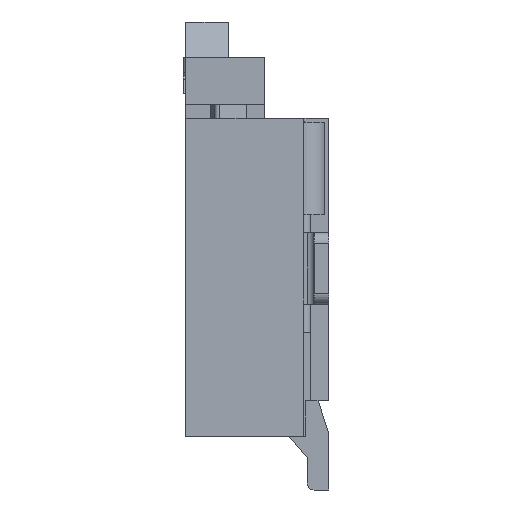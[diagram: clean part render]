
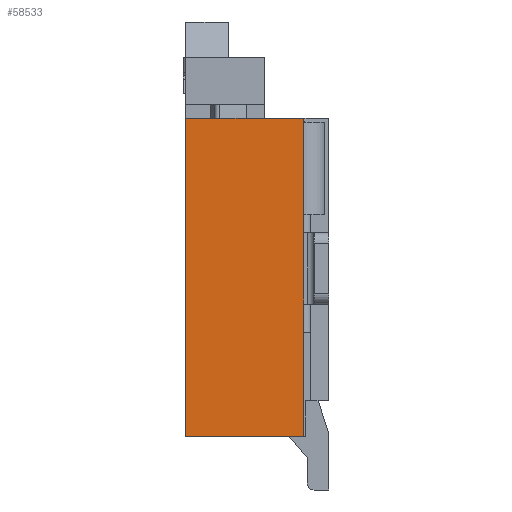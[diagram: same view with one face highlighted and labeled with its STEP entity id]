
A CAD part, left-side view. The second image highlights one B-rep face of the part: STEP entity #58533.
In plain terms, the highlighted planar face has unit normal (-1, 0, 0).
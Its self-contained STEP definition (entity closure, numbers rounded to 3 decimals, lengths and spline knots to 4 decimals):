
#15465=DIRECTION('',(0.,0.,-1.));
#15466=VECTOR('',#15465,4.45);
#15467=CARTESIAN_POINT('',(0.,0.35,0.));
#15468=LINE('',#15467,#15466);
#15469=DIRECTION('',(0.,1.,0.));
#15470=VECTOR('',#15469,1.65);
#15471=CARTESIAN_POINT('',(0.,0.35,-4.45));
#15472=LINE('',#15471,#15470);
#15473=DIRECTION('',(0.,0.,1.));
#15474=VECTOR('',#15473,4.45);
#15475=CARTESIAN_POINT('',(0.,2.,-4.45));
#15476=LINE('',#15475,#15474);
#15485=DIRECTION('',(0.,1.,0.));
#15486=VECTOR('',#15485,1.65);
#15487=CARTESIAN_POINT('',(0.,0.35,0.));
#15488=LINE('',#15487,#15486);
#29499=CARTESIAN_POINT('',(0.,2.,-4.45));
#29501=VERTEX_POINT('',#29499);
#30895=CARTESIAN_POINT('',(0.,0.35,-4.45));
#30896=VERTEX_POINT('',#30895);
#30901=CARTESIAN_POINT('',(0.,0.35,0.));
#30902=VERTEX_POINT('',#30901);
#30903=CARTESIAN_POINT('',(0.,2.,0.));
#30904=VERTEX_POINT('',#30903);
#58521=CARTESIAN_POINT('',(0.,1.175,-2.225));
#58522=DIRECTION('',(1.,0.,0.));
#58523=DIRECTION('',(0.,0.,-1.));
#58524=AXIS2_PLACEMENT_3D('',#58521,#58522,#58523);
#58525=PLANE('',#58524);
#58526=ORIENTED_EDGE('',*,*,#58512,.T.);
#58527=ORIENTED_EDGE('',*,*,#50639,.T.);
#58528=ORIENTED_EDGE('',*,*,#50699,.T.);
#58530=ORIENTED_EDGE('',*,*,#58529,.F.);
#58531=EDGE_LOOP('',(#58526,#58527,#58528,#58530));
#58532=FACE_OUTER_BOUND('',#58531,.F.);
#50639=EDGE_CURVE('',#30896,#29501,#15472,.T.);
#50699=EDGE_CURVE('',#29501,#30904,#15476,.T.);
#58512=EDGE_CURVE('',#30902,#30896,#15468,.T.);
#58529=EDGE_CURVE('',#30902,#30904,#15488,.T.);
#58533=ADVANCED_FACE('',(#58532),#58525,.F.);
